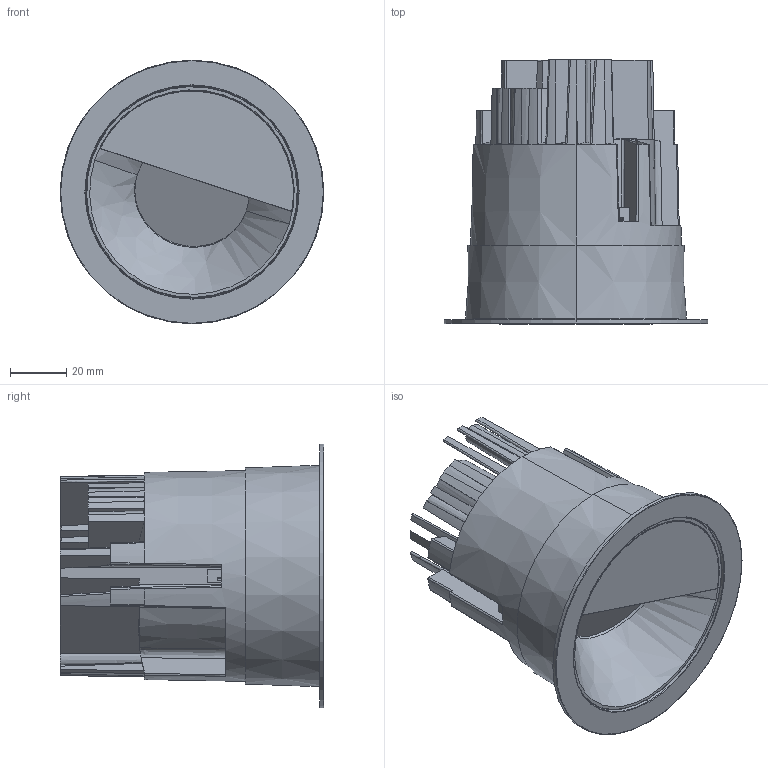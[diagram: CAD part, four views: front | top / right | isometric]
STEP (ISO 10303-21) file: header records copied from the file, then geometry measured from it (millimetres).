
FILE_DESCRIPTION (( 'STEP AP214' ), '1' );
FILE_NAME ('WG-H-PTD3-FA-RBT-RWW.STEP', '2023-02-03T19:45:39', ( '' ), ( '' ), 'SwSTEP 2.0', 'SolidWorks 2021', '' );
FILE_SCHEMA (( 'AUTOMOTIVE_DESIGN' ));
Length unit declared in the file: inch
Products named in the file (13): 41002 - Push Latch Body, Small; 310-10030-101_92005A116; 340-10027-400_stretch out; 760-10049-400; WG-CV-PTD3-RWW-WW-_-__; 720-10057-304; 760-10055-400; 720-10034-300; 41002 - Push Latch Runner, Small; 41002 - Push Latch Clip, Small A; 820-10713_Closed; 720-10056-304; WG-H-PTD3-FA-RBT-RWW
Assembly tree (15 placements, depth 3):
  WG-H-PTD3-FA-RBT-RWW
    720-10034-300
    WG-CV-PTD3-RWW-WW-_-__
      720-10056-304
      720-10057-304
      310-10030-101_92005A116  x2
      340-10027-400_stretch out
      760-10055-400
      760-10049-400
    820-10713_Closed  x3
      41002 - Push Latch Body, Small
      41002 - Push Latch Runner, Small
      41002 - Push Latch Clip, Small A
Bounding box: 94 x 94 x 94 mm (x, y, z)
Volume: 147041.6 mm3; surface area: 117741.8 mm2
Topology: 17 solids, 17 shells, 1487 faces, 4107 edges, 2637 vertices
Faces by surface type: plane 746, cylinder 281, cone 203, bspline 130, torus 76, sphere 51
Entity records: 42063 total; most frequent: CARTESIAN_POINT 15994, ORIENTED_EDGE 5796, DIRECTION 4870, EDGE_CURVE 2898, AXIS2_PLACEMENT_3D 1898, VERTEX_POINT 1865, EDGE_LOOP 1129, ADVANCED_FACE 1075
